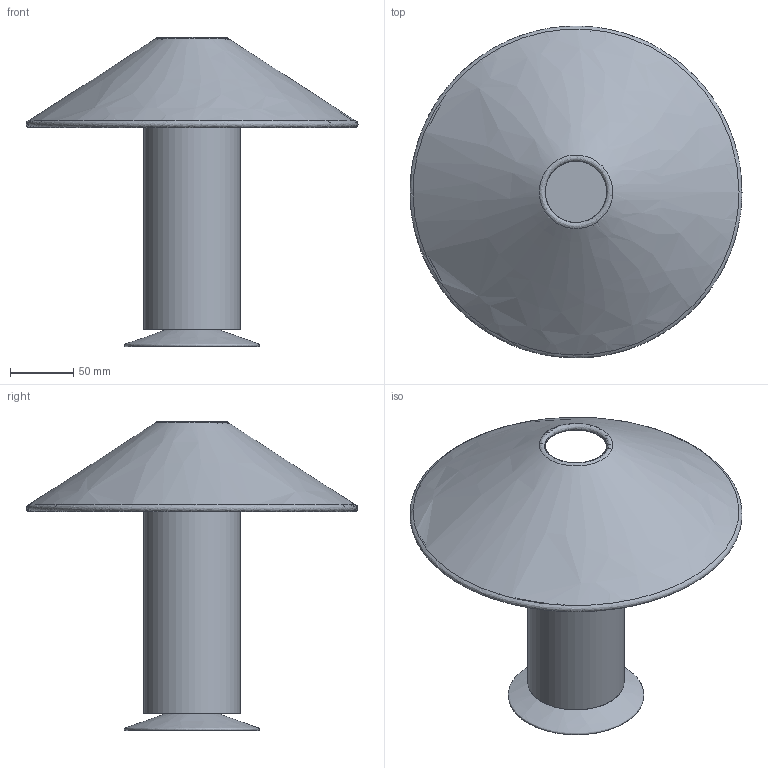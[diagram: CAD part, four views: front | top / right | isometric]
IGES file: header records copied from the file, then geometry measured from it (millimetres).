
Global section: file name: /Users/064_p/Desktop/3d data_02/ILKW_FLAMINGO26_Table_3D.igs; native system: Rhinoceros ( Jul  7 2025 ); preprocessor: Trout Lake IGES 012 Jul  7 2025; date: 260828.081741; units: millimetre
Bounding box: 261.98 x 261.96 x 243.86 mm (x, y, z)
Surface area: 157511.5 mm2 (no closed solid volume)
Topology: 0 solids, 0 shells, 10 faces, 43 edges, 36 vertices
Faces by surface type: bspline 10
